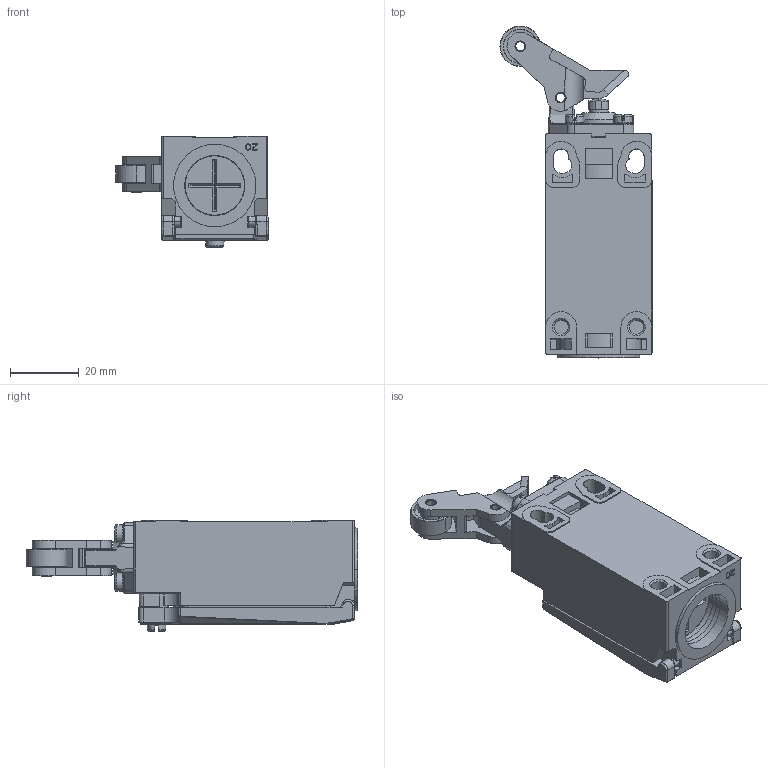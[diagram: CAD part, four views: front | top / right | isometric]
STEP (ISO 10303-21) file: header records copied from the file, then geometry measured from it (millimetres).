
FILE_DESCRIPTION(/* description */ (''),/* implementation_level */ '2;1');
FILE_NAME(/* name */ 'ALS3-P...B2.stp',/* time_stamp */ '2022-04-21T15:11:18+08:00',/* author */ (''),/* organization */ (''),/* preprocessor_version */ 'ST-DEVELOPER v16.7',/* originating_system */ 'SIEMENS PLM Software NX 12.0',/* authorisation */ '');
FILE_SCHEMA (('AUTOMOTIVE_DESIGN { 1 0 10303 214 3 1 1 1 }'));
Length unit declared in the file: millimetre
Products named in the file (13): 4162头部基座60827; M3X953886; 20210810COVER_BODY52924; 卡片40149; 头部压杆37256; 基座头部密封圈35677; 基座214; 4172轮子架63639; 4162轮子齿形弹簧销67805; 4162轮子68720; 尾塞; D4N-4172头部组件60837; ALS3-P...B2_stp
Assembly tree (17 placements, depth 3):
  ALS3-P...B2_stp
    尾塞
    4162轮子68720
    4162轮子齿形弹簧销67805
    4172轮子架63639
    基座214
    基座头部密封圈35677
    头部压杆37256
    卡片40149
    20210810COVER_BODY52924
    M3X953886
    D4N-4172头部组件60837
      4162头部基座60827
      4162轮子齿形弹簧销67805
      M3X953886  x4
Bounding box: 44.25 x 96.61 x 32.37 mm (x, y, z)
Volume: 27700.8 mm3; surface area: 30336.9 mm2
Topology: 16 solids, 16 shells, 1560 faces, 4220 edges, 2719 vertices
Faces by surface type: plane 733, cylinder 430, bspline 149, cone 120, torus 80, sphere 40, extrusion 8
Entity records: 49392 total; most frequent: CARTESIAN_POINT 14633, ORIENTED_EDGE 7440, DIRECTION 6923, EDGE_CURVE 3720, AXIS2_PLACEMENT_3D 2419, VERTEX_POINT 2409, VECTOR 2085, LINE 2077
